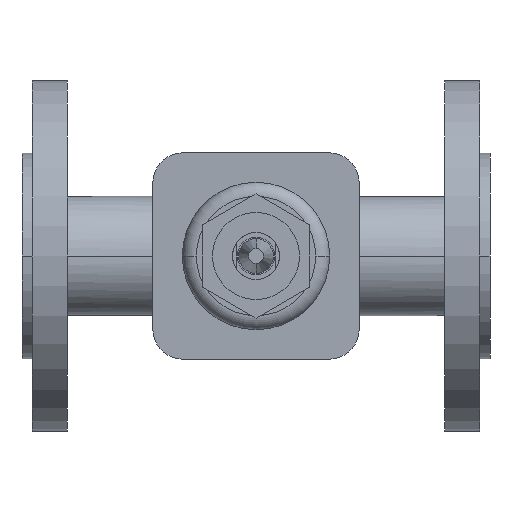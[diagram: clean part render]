
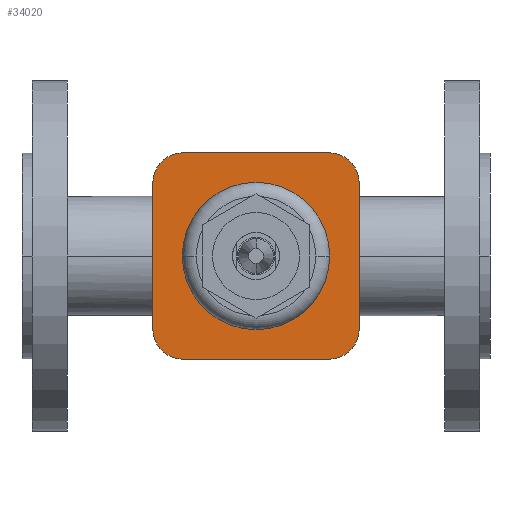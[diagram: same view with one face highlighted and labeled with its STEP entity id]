
A CAD part, front view. The second image highlights one B-rep face of the part: STEP entity #34020.
In plain terms, the highlighted planar face has unit normal (0, -1, 0).
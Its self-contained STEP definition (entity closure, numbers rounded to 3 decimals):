
#16810=CARTESIAN_POINT('',(68.5,-80.5,0.));
#16820=VERTEX_POINT('',#16810);
#16870=CARTESIAN_POINT('',(100.,-80.5,0.));
#16880=DIRECTION('',(0.,1.,0.));
#16890=DIRECTION('',(1.,0.,0.));
#16900=AXIS2_PLACEMENT_3D('',#16870,#16880,#16890);
#16910=CIRCLE('',#16900,31.5);
#16920=CARTESIAN_POINT('',(131.5,-80.5,0.));
#16930=VERTEX_POINT('',#16920);
#16940=EDGE_CURVE('',#16820,#16930,#16910,.T.);
#31320=CARTESIAN_POINT('',(144.113,-80.5,-31.113));
#31330=VERTEX_POINT('',#31320);
#31490=CARTESIAN_POINT('',(131.113,-80.5,-44.113));
#31500=VERTEX_POINT('',#31490);
#31530=CARTESIAN_POINT('',(131.113,-80.5,-31.113));
#31540=DIRECTION('',(0.,-1.,0.));
#31550=DIRECTION('',(1.,0.,0.));
#31560=AXIS2_PLACEMENT_3D('',#31530,#31540,#31550);
#31570=CIRCLE('',#31560,13.);
#31580=EDGE_CURVE('',#31500,#31330,#31570,.T.);
#33190=CARTESIAN_POINT('',(68.887,-80.5,-44.113));
#33200=VERTEX_POINT('',#33190);
#33230=CARTESIAN_POINT('',(137.931,-80.5,-44.113));
#33240=DIRECTION('',(1.,0.,0.));
#33250=VECTOR('',#33240,1.);
#33260=LINE('',#33230,#33250);
#33270=EDGE_CURVE('',#33200,#31500,#33260,.T.);
#33390=CARTESIAN_POINT('',(144.75,-80.5,0.));
#33400=DIRECTION('',(0.,-1.,0.));
#33410=DIRECTION('',(-1.,0.,0.));
#33420=AXIS2_PLACEMENT_3D('',#33390,#33400,#33410);
#33430=PLANE('',#33420);
#33440=CARTESIAN_POINT('',(68.887,-80.5,31.113));
#33450=DIRECTION('',(0.,-1.,0.));
#33460=DIRECTION('',(-1.,0.,0.));
#33470=AXIS2_PLACEMENT_3D('',#33440,#33450,#33460);
#33480=CIRCLE('',#33470,13.);
#33490=CARTESIAN_POINT('',(68.887,-80.5,44.113));
#33500=VERTEX_POINT('',#33490);
#33510=CARTESIAN_POINT('',(55.887,-80.5,31.113));
#33520=VERTEX_POINT('',#33510);
#33530=EDGE_CURVE('',#33500,#33520,#33480,.T.);
#33540=ORIENTED_EDGE('',*,*,#33530,.T.);
#33550=CARTESIAN_POINT('',(106.819,-80.5,44.113));
#33560=DIRECTION('',(-1.,0.,0.));
#33570=VECTOR('',#33560,1.);
#33580=LINE('',#33550,#33570);
#33590=CARTESIAN_POINT('',(131.113,-80.5,44.113));
#33600=VERTEX_POINT('',#33590);
#33610=EDGE_CURVE('',#33600,#33500,#33580,.T.);
#33620=ORIENTED_EDGE('',*,*,#33610,.T.);
#33630=CARTESIAN_POINT('',(131.113,-80.5,31.113));
#33640=DIRECTION('',(0.,-1.,0.));
#33650=DIRECTION('',(0.,0.,1.));
#33660=AXIS2_PLACEMENT_3D('',#33630,#33640,#33650);
#33670=CIRCLE('',#33660,13.);
#33680=CARTESIAN_POINT('',(144.113,-80.5,31.113));
#33690=VERTEX_POINT('',#33680);
#33700=EDGE_CURVE('',#33690,#33600,#33670,.T.);
#33710=ORIENTED_EDGE('',*,*,#33700,.T.);
#33720=CARTESIAN_POINT('',(144.113,-80.5,15.556));
#33730=DIRECTION('',(0.,0.,1.));
#33740=VECTOR('',#33730,1.);
#33750=LINE('',#33720,#33740);
#33760=EDGE_CURVE('',#31330,#33690,#33750,.T.);
#33770=ORIENTED_EDGE('',*,*,#33760,.T.);
#33780=ORIENTED_EDGE('',*,*,#31580,.T.);
#33790=ORIENTED_EDGE('',*,*,#33270,.T.);
#33800=CARTESIAN_POINT('',(68.887,-80.5,-31.113));
#33810=DIRECTION('',(0.,-1.,0.));
#33820=DIRECTION('',(0.,0.,-1.));
#33830=AXIS2_PLACEMENT_3D('',#33800,#33810,#33820);
#33840=CIRCLE('',#33830,13.);
#33850=CARTESIAN_POINT('',(55.887,-80.5,-31.113));
#33860=VERTEX_POINT('',#33850);
#33870=EDGE_CURVE('',#33860,#33200,#33840,.T.);
#33880=ORIENTED_EDGE('',*,*,#33870,.T.);
#33890=CARTESIAN_POINT('',(55.887,-80.5,-15.556));
#33900=DIRECTION('',(0.,0.,-1.));
#33910=VECTOR('',#33900,1.);
#33920=LINE('',#33890,#33910);
#33930=EDGE_CURVE('',#33520,#33860,#33920,.T.);
#33940=ORIENTED_EDGE('',*,*,#33930,.T.);
#33950=EDGE_LOOP('',(#33940,#33880,#33790,#33780,#33770,#33710,#33620,
#33540));
#33960=FACE_OUTER_BOUND('',#33950,.T.);
#33970=ORIENTED_EDGE('',*,*,#16940,.T.);
#33980=EDGE_CURVE('',#16930,#16820,#16910,.T.);
#33990=ORIENTED_EDGE('',*,*,#33980,.T.);
#34000=EDGE_LOOP('',(#33990,#33970));
#34010=FACE_BOUND('',#34000,.T.);
#34020=ADVANCED_FACE('',(#33960,#34010),#33430,.T.);
